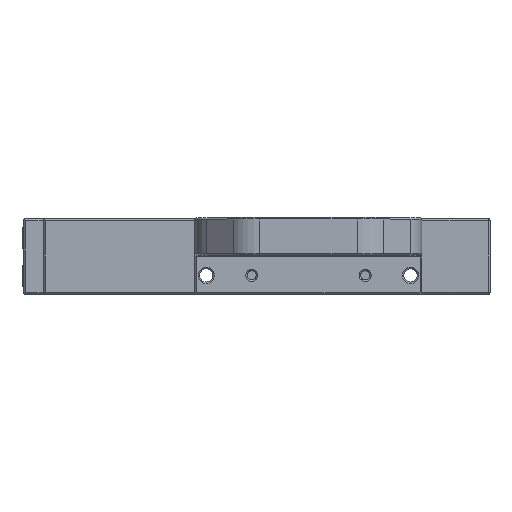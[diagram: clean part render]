
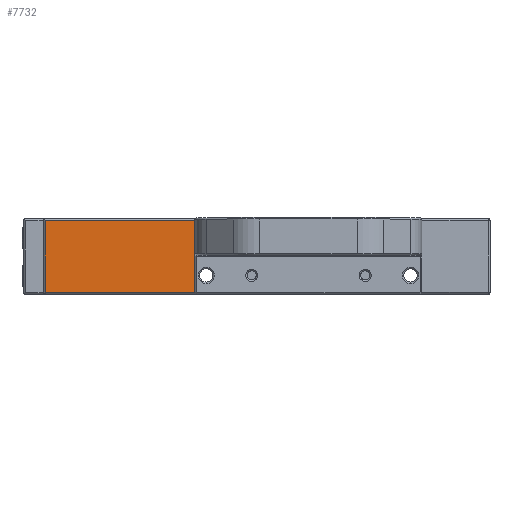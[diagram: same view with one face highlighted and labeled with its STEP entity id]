
A CAD part, top view. The second image highlights one B-rep face of the part: STEP entity #7732.
In plain terms, the highlighted planar face has unit normal (0, 0, 1).
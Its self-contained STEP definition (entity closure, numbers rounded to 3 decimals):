
#267=DIRECTION('',(-1.,0.,0.));
#268=VECTOR('',#267,50.171);
#269=CARTESIAN_POINT('',(-39.583,-9.973,
-89.278));
#270=LINE('',#269,#268);
#288=DIRECTION('',(0.,1.,0.));
#289=VECTOR('',#288,24.13);
#290=CARTESIAN_POINT('',(-89.754,-9.973,
-89.278));
#291=LINE('',#290,#289);
#309=DIRECTION('',(1.,0.,0.));
#310=VECTOR('',#309,50.171);
#311=CARTESIAN_POINT('',(-89.754,14.157,-89.278));
#312=LINE('',#311,#310);
#453=DIRECTION('',(0.,1.,0.));
#454=VECTOR('',#453,24.13);
#455=CARTESIAN_POINT('',(-39.583,-9.973,
-89.278));
#456=LINE('',#455,#454);
#6490=CARTESIAN_POINT('',(-89.754,-9.973,
-89.278));
#6491=CARTESIAN_POINT('',(-89.754,14.157,
-89.278));
#6492=VERTEX_POINT('',#6490);
#6493=VERTEX_POINT('',#6491);
#6520=CARTESIAN_POINT('',(-39.583,14.157,
-89.278));
#6521=VERTEX_POINT('',#6520);
#6571=CARTESIAN_POINT('',(-39.583,-9.973,
-89.278));
#6572=VERTEX_POINT('',#6571);
#7721=CARTESIAN_POINT('',(-39.583,14.792,
-89.278));
#7722=DIRECTION('',(0.,0.,-1.));
#7723=DIRECTION('',(-1.,0.,0.));
#7724=AXIS2_PLACEMENT_3D('',#7721,#7722,#7723);
#7725=PLANE('',#7724);
#7726=ORIENTED_EDGE('',*,*,#7563,.T.);
#7727=ORIENTED_EDGE('',*,*,#7591,.T.);
#7728=ORIENTED_EDGE('',*,*,#7715,.F.);
#7729=ORIENTED_EDGE('',*,*,#7536,.T.);
#7730=EDGE_LOOP('',(#7726,#7727,#7728,#7729));
#7731=FACE_OUTER_BOUND('',#7730,.F.);
#7732=ADVANCED_FACE('',(#7731),#7725,.F.);
#7536=EDGE_CURVE('',#6572,#6492,#270,.T.);
#7563=EDGE_CURVE('',#6492,#6493,#291,.T.);
#7591=EDGE_CURVE('',#6493,#6521,#312,.T.);
#7715=EDGE_CURVE('',#6572,#6521,#456,.T.);
